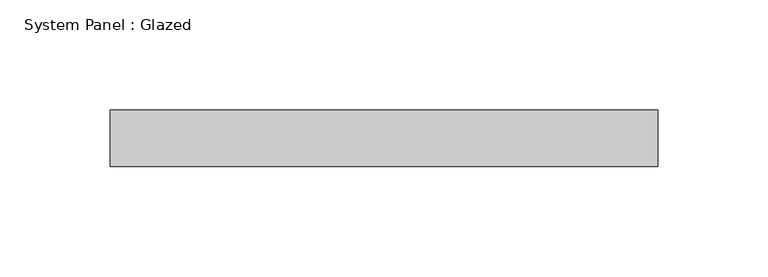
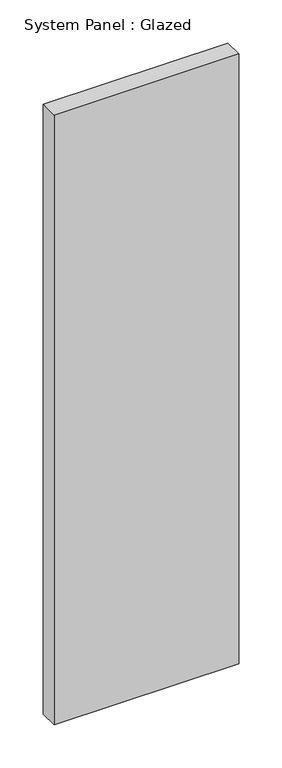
"""IFC4 building model written with IfcOpenShell, lengths in millimetres: plate geometry, System Panel : Glazed."""

from ifc_helpers import new_model, si_unit, origin, origin_with_axes, place, context, project, spatial, polyline, outline, extrude, source, transform, mapped, element, save


def system_panel_glazed_39e086ca(model_context):
    return source(origin(), model_context, "Body", "SweptSolid", [
        extrude(outline(polyline([(123.825, -44.45), (-123.825, -44.45), (-123.825, -19.05), (123.825, -19.05), (123.825, -44.45)])), origin_with_axes(), (0.0, 0.0, 1.0), 863.6),
    ])


if __name__ == "__main__":
    model = new_model("IFC4")
    model_context = context("Model", 3, world=origin())
    ifc_project = project(units=[si_unit("LENGTHUNIT", "METRE", prefix="MILLI")], contexts=[model_context])
    site = spatial("IfcSite", under=ifc_project)
    building = spatial("IfcBuilding", under=site)
    placement = place(None, origin())
    system_panel_glazed_shape = system_panel_glazed_39e086ca(model_context)
    element("IfcPlate", 1, ObjectType="System Panel : Glazed", at=placement, inside=building, context=model_context, shape_type="MappedRepresentation", body=[
        mapped(system_panel_glazed_shape, transform((0.0, 0.0, 0.0), x_axis=(1.0, 0.0, 0.0), y_axis=(0.0, 1.0, 0.0), z_axis=(0.0, 0.0, 1.0))),
    ])
    save(model, "model.ifc")
